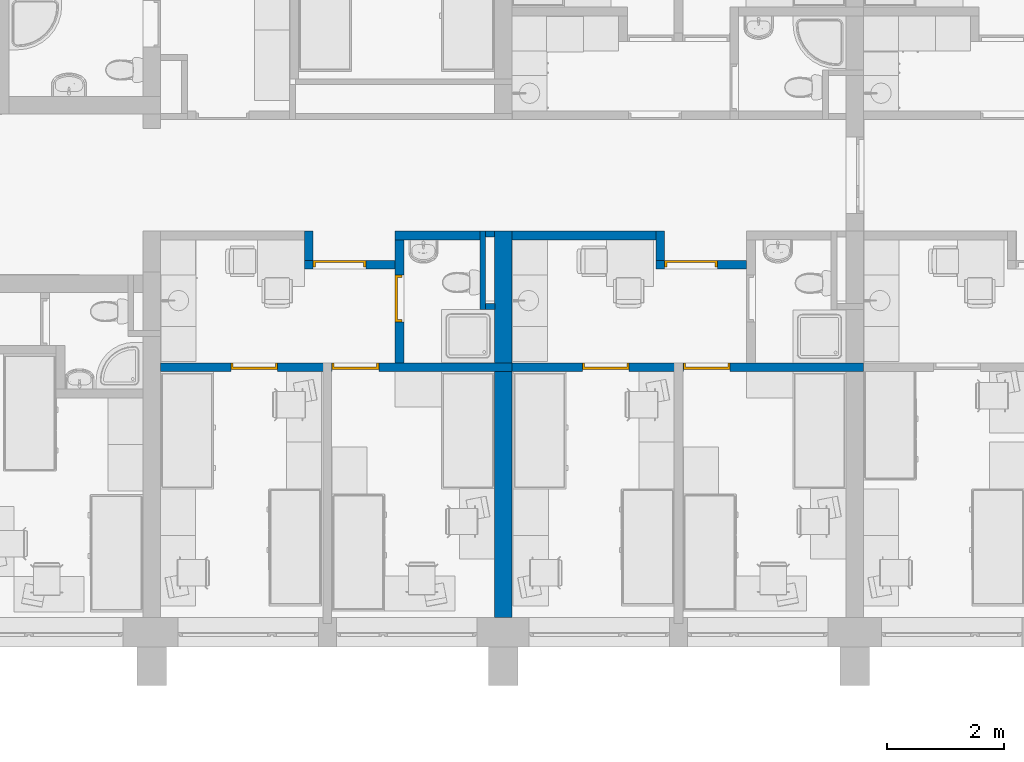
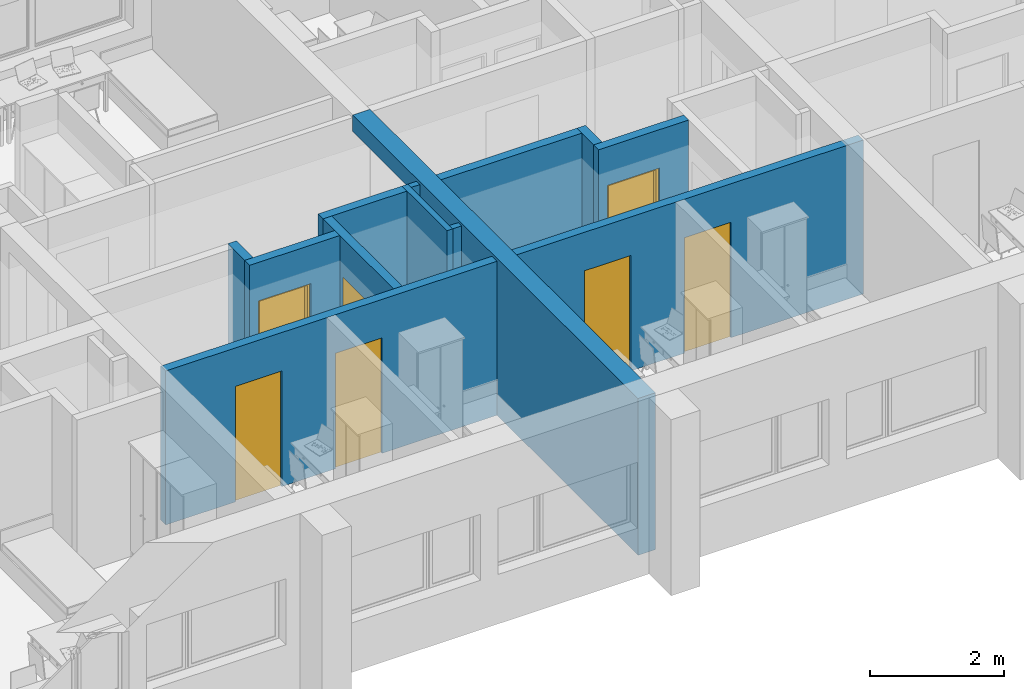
# One storey, part 3 of 165: 13 walls, 7 doors, 8 openings.
"""IFC2X3 building model written with IfcOpenShell, lengths in millimetres."""

import ifcopenshell
import ifcopenshell.guid

model = None  # the IFC model being written
_history = None  # IfcOwnerHistory: only IFC2X3 demands one
_inside = {}  # id of a spatial element -> (the spatial element, [elements in it])
_under = {}  # id of a project, library or spatial element -> (it, [spatial elements below it])
_declared = {}  # id of a project -> (the project, [libraries it declares])
_typed = {}  # id of a type object -> (the type object, [elements of that type])
_made_of = {}  # id of a material, layer set ... -> (it, [elements and type objects made of it])


def new_model(schema):
    """Start an empty IFC model of exactly this schema.

    Asked for "IFC4X3", IfcOpenShell would pick the latest addendum, in which some entities
    have other attributes; the version numbers below select the first issue.
    IFC2X3 requires an IfcOwnerHistory on every rooted entity: one is made here for all.
    """
    global model, _history
    if schema == "IFC4X3":
        model = ifcopenshell.file(schema_version=(4, 3, 0, 0))
    else:
        model = ifcopenshell.file(schema=schema)
    _inside.clear()
    _under.clear()
    _declared.clear()
    _typed.clear()
    _made_of.clear()
    _history = None
    if model.schema == "IFC2X3":
        org = make("IfcOrganization", Name="unknown")
        user = make(
            "IfcPersonAndOrganization",
            ThePerson=make("IfcPerson", FamilyName="unknown"),
            TheOrganization=org,
        )
        app = make(
            "IfcApplication",
            ApplicationDeveloper=org,
            Version="unknown",
            ApplicationFullName="unknown",
            ApplicationIdentifier="unknown",
        )
        _history = make(
            "IfcOwnerHistory",
            OwningUser=user,
            OwningApplication=app,
            ChangeAction="ADDED",
            CreationDate=0,
        )
    return model


def make(cls, **values):
    """One entity of the class cls with the attributes given. An attribute that is None is left unset."""
    return model.create_entity(
        cls, **{name: value for name, value in values.items() if value is not None}
    )


def entity(cls, *values):
    """Any entity or typed value of the class cls, its attributes in the order of the schema. None: left unset."""
    e = model.create_entity(cls)
    for i, value in enumerate(values):
        if value is not None:
            e[i] = value
    return e


def rooted(cls, **values):
    """An entity with a GlobalId (a new one), such as an element, a storey or a relation."""
    return make(cls, GlobalId=ifcopenshell.guid.new(), OwnerHistory=_history, **values)


def si_unit(unit_type, name, prefix=None):
    """IfcSIUnit, for example si_unit("LENGTHUNIT", "METRE", prefix="MILLI")."""
    return make("IfcSIUnit", UnitType=unit_type, Prefix=prefix, Name=name)


def converted_unit(unit_type, name, factor, base, dimensions=None, offset=None):
    """IfcConversionBasedUnit, such as the inch: factor (a typed value) times the base unit."""
    return make(
        "IfcConversionBasedUnit"
        if offset is None
        else "IfcConversionBasedUnitWithOffset",
        ConversionOffset=offset,
        Dimensions=None
        if dimensions is None
        else entity("IfcDimensionalExponents", *dimensions),
        UnitType=unit_type,
        Name=name,
        ConversionFactor=make(
            "IfcMeasureWithUnit", ValueComponent=factor, UnitComponent=base
        ),
    )


def money_unit(currency):
    """IfcMonetaryUnit."""
    return make("IfcMonetaryUnit", Currency=currency)


def assignment(units):
    """IfcUnitAssignment: the units of a project."""
    return None if units is None else make("IfcUnitAssignment", Units=units)


def point(xyz):
    """IfcCartesianPoint."""
    return None if xyz is None else make("IfcCartesianPoint", Coordinates=xyz)


def direction(xyz):
    """IfcDirection."""
    return None if xyz is None else make("IfcDirection", DirectionRatios=xyz)


def frame(location, z_axis=None, x_axis=None):
    """IfcAxis2Placement3D, a coordinate frame: its origin and axes. An axis left out is left unset."""
    return make(
        "IfcAxis2Placement3D",
        Location=point(location),
        Axis=direction(z_axis),
        RefDirection=direction(x_axis),
    )


def origin_with_axes():
    """The frame at (0, 0, 0) with the z axis (0, 0, 1) and the x axis (1, 0, 0) written out."""
    return frame((0.0, 0.0, 0.0), z_axis=(0.0, 0.0, 1.0), x_axis=(1.0, 0.0, 0.0))


def place(relative_to, where):
    """IfcLocalPlacement: puts the frame where relative to a parent placement (None: the world)."""
    return make(
        "IfcLocalPlacement", PlacementRelTo=relative_to, RelativePlacement=where
    )


def context(
    kind, dimensions, precision=None, world=None, true_north=None, identifier=None
):
    """IfcGeometricRepresentationContext, for example the 3D "Model" context."""
    return make(
        "IfcGeometricRepresentationContext",
        ContextIdentifier=identifier,
        ContextType=kind,
        CoordinateSpaceDimension=dimensions,
        Precision=precision,
        WorldCoordinateSystem=world,
        TrueNorth=true_north,
    )


def subcontext(parent, identifier, kind, view, scale=None):
    """IfcGeometricRepresentationSubContext, for example "Body" below "Model"."""
    return make(
        "IfcGeometricRepresentationSubContext",
        ContextIdentifier=identifier,
        ContextType=kind,
        ParentContext=parent,
        TargetScale=scale,
        TargetView=view,
    )


def project(units=None, contexts=None):
    """IfcProject with its units and contexts."""
    return rooted(
        "IfcProject",
        Name="project",
        RepresentationContexts=contexts,
        UnitsInContext=assignment(units),
    )


def spatial(cls, under=None, at=None, **own):
    """A site, building, storey or space (cls), placed at a placement, below another one or the project."""
    s = rooted(cls, ObjectPlacement=at, **own)
    if under is not None:
        _under.setdefault(under.id(), (under, []))[1].append(s)
    return s


def polyline(points):
    """IfcPolyline through the points."""
    return make("IfcPolyline", Points=[point(p) for p in points])


def outline(outer, holes=None, kind="AREA"):
    """IfcArbitraryClosedProfileDef: a profile drawn as a closed curve; with holes, ...WithVoids."""
    if holes is None:
        return make("IfcArbitraryClosedProfileDef", ProfileType=kind, OuterCurve=outer)
    return make(
        "IfcArbitraryProfileDefWithVoids",
        ProfileType=kind,
        OuterCurve=outer,
        InnerCurves=holes,
    )


def extrude(swept, where, along, depth):
    """IfcExtrudedAreaSolid: the profile swept, set in the frame where, extruded along a direction by depth."""
    return make(
        "IfcExtrudedAreaSolid",
        SweptArea=swept,
        Position=where,
        ExtrudedDirection=direction(along),
        Depth=depth,
    )


def faces_of(points, faces, orient=None, outer=None):
    """IfcFace entities. A face is a list of loops; a loop is a list of indices into points, from 0.

    orient and outer hold one flag for each loop. By default every Orientation is true, the
    first loop of a face is its IfcFaceOuterBound and the others are IfcFaceBound.
    """
    made = []
    for i, loops in enumerate(faces):
        bounds = []
        for j, loop in enumerate(loops):
            is_outer = j == 0 if outer is None else outer[i][j]
            bounds.append(
                make(
                    "IfcFaceOuterBound" if is_outer else "IfcFaceBound",
                    Bound=make("IfcPolyLoop", Polygon=[points[k] for k in loop]),
                    Orientation=True if orient is None else orient[i][j],
                )
            )
        made.append(make("IfcFace", Bounds=bounds))
    return made


def faceted_brep(points, faces, orient=None, outer=None, voids=None):
    """IfcFacetedBrep: a solid bounded by flat faces; with voids (closed shells), ...WithVoids."""
    shared = [point(p) for p in points]
    hull = make("IfcClosedShell", CfsFaces=faces_of(shared, faces, orient, outer))
    if voids is None:
        return make("IfcFacetedBrep", Outer=hull)
    return make(
        "IfcFacetedBrepWithVoids",
        Outer=hull,
        Voids=[
            make(cls, CfsFaces=faces_of(shared, fs, o, b)) for cls, fs, o, b in voids
        ],
    )


def shape(context_of_items, identifier, shape_type, items):
    """IfcShapeRepresentation: the items that make up one representation, for example the "Body"."""
    return make(
        "IfcShapeRepresentation",
        ContextOfItems=context_of_items,
        RepresentationIdentifier=identifier,
        RepresentationType=shape_type,
        Items=items,
    )


def source(mapping_origin, context_of_items, identifier, shape_type, items):
    """IfcRepresentationMap: a shape defined once, which mapped items show again and again."""
    return make(
        "IfcRepresentationMap",
        MappingOrigin=mapping_origin,
        MappedRepresentation=shape(context_of_items, identifier, shape_type, items),
    )


def transform(
    local_origin,
    x_axis=None,
    y_axis=None,
    z_axis=None,
    scale=None,
    scale2=None,
    scale3=None,
    uniform=True,
):
    """IfcCartesianTransformationOperator3D, or its non-uniform kind. x_axis, y_axis, z_axis: its Axis1, 2, 3."""
    if uniform:
        return make(
            "IfcCartesianTransformationOperator3D",
            Axis1=direction(x_axis),
            Axis2=direction(y_axis),
            LocalOrigin=point(local_origin),
            Scale=scale,
            Axis3=direction(z_axis),
        )
    return make(
        "IfcCartesianTransformationOperator3DnonUniform",
        Axis1=direction(x_axis),
        Axis2=direction(y_axis),
        LocalOrigin=point(local_origin),
        Scale=scale,
        Axis3=direction(z_axis),
        Scale2=scale2,
        Scale3=scale3,
    )


def mapped(mapping_source, mapping_target):
    """IfcMappedItem: shows the shape of a source again, moved by a transform."""
    return make(
        "IfcMappedItem", MappingSource=mapping_source, MappingTarget=mapping_target
    )


def material(Name=None, Category=None):
    """IfcMaterial."""
    return make("IfcMaterial", Name=Name, Category=Category)


def material_list(materials):
    """IfcMaterialList."""
    return make("IfcMaterialList", Materials=materials)


def layer(
    of_material, thickness, ventilated=None, Name=None, Category=None, Priority=None
):
    """IfcMaterialLayer: one layer of a wall or slab, of a material (None: an air gap)."""
    return make(
        "IfcMaterialLayer",
        Material=of_material,
        LayerThickness=thickness,
        IsVentilated=ventilated,
        Name=Name,
        Category=Category,
        Priority=Priority,
    )


def layer_set(layers, Name=None):
    """IfcMaterialLayerSet."""
    return make("IfcMaterialLayerSet", MaterialLayers=layers, LayerSetName=Name)


def layer_usage(for_layer_set, set_direction, sense, offset, extent=None):
    """IfcMaterialLayerSetUsage: how a layer set lies in its element."""
    return make(
        "IfcMaterialLayerSetUsage",
        ForLayerSet=for_layer_set,
        LayerSetDirection=set_direction,
        DirectionSense=sense,
        OffsetFromReferenceLine=offset,
        ReferenceExtent=extent,
    )


def made_of(thing, what):
    """Note that an element or type object is made of a material, layer set ...; save() writes the relation."""
    if what is not None:
        _made_of.setdefault(what.id(), (what, []))[1].append(thing)
    return thing


def type_object(cls, material=None, **own):
    """A type object (cls), such as IfcWallType, which elements share."""
    return made_of(rooted(cls, **own), material)


def element(
    cls,
    number,
    at=None,
    inside=None,
    cuts=None,
    type_object=None,
    material=None,
    context=None,
    identifier="Body",
    shape_type=None,
    held_by="IfcProductDefinitionShape",
    body=None,
    shapes=None,
    **own,
):
    """One element of the class cls, such as IfcWall. Its Tag is "e" and its number.

    at: its placement. inside: the storey or other place that contains it. cuts: it is an
    opening in that element (IfcRelVoidsElement). A single representation is given by context,
    identifier, shape_type and body (its items); several are given by shapes. held_by: the class
    of the entity that holds the representations. save() writes the other relations.
    """
    e = rooted(cls, Tag="e%d" % number, ObjectPlacement=at, **own)
    if body is not None:
        shapes = [shape(context, identifier, shape_type, body)]
    if shapes is not None:
        e.Representation = make(held_by, Representations=shapes)
    if inside is not None:
        _inside.setdefault(inside.id(), (inside, []))[1].append(e)
    if cuts is not None:
        rooted(
            "IfcRelVoidsElement", RelatingBuildingElement=cuts, RelatedOpeningElement=e
        )
    if type_object is not None:
        _typed.setdefault(type_object.id(), (type_object, []))[1].append(e)
    return made_of(e, material)


def fill(opening, filler):
    """IfcRelFillsElement: the door or window that sits in an opening."""
    return rooted(
        "IfcRelFillsElement",
        RelatingOpeningElement=opening,
        RelatedBuildingElement=filler,
    )


def aggregate(whole, parts):
    """IfcRelAggregates: a whole, such as a stair, and the parts it consists of."""
    return rooted("IfcRelAggregates", RelatingObject=whole, RelatedObjects=parts)


def save(model, path):
    """Write the relations noted so far, then the file.

    IfcRelAggregates (storeys below a building ...), IfcRelContainedInSpatialStructure (elements
    in a storey), IfcRelDefinesByType, IfcRelAssociatesMaterial and IfcRelDeclares: one each for
    every whole, place, type object, material and project.
    """
    for whole, parts in _under.values():
        aggregate(whole, parts)
    for where, things in _inside.values():
        rooted(
            "IfcRelContainedInSpatialStructure",
            RelatedElements=things,
            RelatingStructure=where,
        )
    for kind, things in _typed.values():
        rooted("IfcRelDefinesByType", RelatedObjects=things, RelatingType=kind)
    for what, things in _made_of.values():
        rooted("IfcRelAssociatesMaterial", RelatedObjects=things, RelatingMaterial=what)
    for by, libraries in _declared.values():
        rooted("IfcRelDeclares", RelatingContext=by, RelatedDefinitions=libraries)
    model.write(path)


model = new_model("IFC2X3")

# Units and contexts
model_context = context("Model", 3, precision=1e-05, world=origin_with_axes(), true_north=direction((0.0, 1.0)))
body_context = subcontext(model_context, "Body", "Model", "MODEL_VIEW")
ifc_project = project(units=[si_unit("LENGTHUNIT", "METRE", prefix="MILLI"), si_unit("AREAUNIT", "SQUARE_METRE"), si_unit("VOLUMEUNIT", "CUBIC_METRE"), converted_unit("PLANEANGLEUNIT", "DEGREE", entity("IfcPlaneAngleMeasure", 0.0174532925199), si_unit("PLANEANGLEUNIT", "RADIAN"), dimensions=[0, 0, 0, 0, 0, 0, 0]), si_unit("SOLIDANGLEUNIT", "STERADIAN"), money_unit("USD"), converted_unit("TIMEUNIT", "Year", entity("IfcTimeMeasure", 31556926.0), si_unit("TIMEUNIT", "SECOND"), dimensions=[0, 0, 0, 0, 0, 0, 0]), si_unit("MASSUNIT", "GRAM"), si_unit("THERMODYNAMICTEMPERATUREUNIT", "DEGREE_CELSIUS"), si_unit("LUMINOUSINTENSITYUNIT", "LUMEN")], contexts=[model_context])

# Site, building, storey
site_placement = place(None, origin_with_axes())
site = spatial("IfcSite", under=ifc_project, at=site_placement, Name="Site", CompositionType="ELEMENT")
building_placement = place(site_placement, origin_with_axes())
building = spatial("IfcBuilding", under=site, at=building_placement, Name="Building", CompositionType="ELEMENT")
storey_placement = place(building_placement, frame((0.0, 0.0, 6300.0), z_axis=(0.0, 0.0, 1.0), x_axis=(1.0, 0.0, 0.0)))
storey = spatial("IfcBuildingStorey", under=building, at=storey_placement, Name="4KORRUS", CompositionType="ELEMENT", Elevation=6300.0)

# Wall, opening, door
ifc_material_1 = material(Name="UmbKipsplaat")
ifc_layer_1 = layer(ifc_material_1, 13.0, ventilated="UNKNOWN")
ifc_layer_2 = layer(ifc_material_1, 13.0, ventilated="UNKNOWN")
ifc_material_2 = material(Name="SOOJUSTUS MINERAALVILL")
ifc_layer_3 = layer(ifc_material_2, 98.0, ventilated="UNKNOWN")
ifc_layer_4 = layer(ifc_material_1, 13.0, ventilated="UNKNOWN")
ifc_layer_5 = layer(ifc_material_1, 13.0, ventilated="UNKNOWN")
ifc_layer_set_1 = layer_set([ifc_layer_1, ifc_layer_2, ifc_layer_3, ifc_layer_4, ifc_layer_5], Name="kipssein150")
ifc_layer_usage_1 = layer_usage(ifc_layer_set_1, "AXIS2", "POSITIVE", 0.0)
wall_type_1 = type_object("IfcWallType", Name="kipssein150 150", PredefinedType="NOTDEFINED")
wall_1_placement = place(storey_placement, frame((-43984.201689, -13539.4524083, 0.0), z_axis=(0.0, 0.0, 1.0), x_axis=(-1.0, 0.0, 0.0)))
wall_1 = element("IfcWallStandardCase", 1, at=wall_1_placement, inside=storey, type_object=wall_type_1, material=ifc_layer_usage_1, Name="SS1", ObjectType="SS1", context=body_context, shape_type="SweptSolid", body=[
    extrude(outline(polyline([(0.0, 0.0), (1549.66067938, 0.0), (1549.66067938, 150.0), (0.0, 150.0), (0.0, 0.0)])), origin_with_axes(), (0.0, 0.0, 1.0), 2800.0),
])
opening_1_placement = place(wall_1_placement, frame((949.660679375, 0.0, 0.0), z_axis=(0.0, 0.0, 1.0), x_axis=(1.0, 0.0, 0.0)))
opening_1 = element("IfcOpeningElement", 2, at=opening_1_placement, cuts=wall_1, Name="SU2-6", context=body_context, shape_type="SweptSolid", body=[
    extrude(outline(polyline([(-450.0, -2100.0), (450.0, -2100.0), (450.0, 0.0), (-450.0, 0.0), (-450.0, -2100.0)])), frame((0.0, 150.0, 0.0), z_axis=(0.0, 1.0, 0.0), x_axis=(1.0, 0.0, 0.0)), (0.0, 0.0, -1.0), 450.0),
])
ifc_material_3 = material(Name="Background")
ifc_material_list = material_list([ifc_material_3])
door_style_1 = type_object("IfcDoorStyle", Name="Door 19", ConstructionType="NOTDEFINED", OperationType="SINGLE_SWING_LEFT", ParameterTakesPrecedence=False, Sizeable=False)
shared_shape_1 = source(origin_with_axes(), body_context, "Body", "Brep", [
    faceted_brep([(410.0, -40.0, 0.0), (410.0, -115.0, 0.0), (410.0, -115.0, 2060.0), (410.0, -40.0, 2060.0), (422.0, -40.0, 0.0), (422.0, 0.0, 0.0), (450.0, 0.0, 0.0), (450.0, -115.0, 0.0), (450.0, -115.0, 2060.0), (422.0, -40.0, 2060.0), (450.0, 0.0, 2060.0), (422.0, 0.0, 2060.0)], [[[0, 1, 2, 3]], [[4, 5, 6, 7, 1, 0]], [[2, 1, 7, 8]], [[9, 3, 2, 8, 10, 11]], [[9, 4, 0, 3]], [[11, 5, 4, 9]], [[11, 10, 6, 5]], [[7, 6, 10, 8]]]),
    faceted_brep([(-422.0, -40.0, 2060.0), (-422.0, 0.0, 2060.0), (-450.0, 0.0, 2060.0), (-450.0, -115.0, 2060.0), (-410.0, -115.0, 2060.0), (-410.0, -40.0, 2060.0), (-422.0, -40.0, 0.0), (-422.0, 0.0, 0.0), (-450.0, 0.0, 0.0), (-450.0, -115.0, 0.0), (-410.0, -115.0, 0.0), (-410.0, -40.0, 0.0)], [[[0, 1, 2, 3, 4, 5]], [[0, 6, 7, 1]], [[7, 8, 2, 1]], [[3, 2, 8, 9]], [[4, 3, 9, 10]], [[5, 4, 10, 11]], [[5, 11, 6, 0]], [[6, 11, 10, 9, 8, 7]]]),
    faceted_brep([(422.0, 0.0, 2072.0), (-422.0, 0.0, 2072.0), (-422.0, 0.0, 2060.0), (-450.0, 0.0, 2060.0), (-450.0, 0.0, 2100.0), (450.0, 0.0, 2100.0), (450.0, 0.0, 2060.0), (422.0, 0.0, 2060.0), (422.0, -40.0, 2072.0), (-422.0, -40.0, 2072.0), (-422.0, -40.0, 2060.0), (-410.0, -40.0, 2060.0), (-410.0, -115.0, 2060.0), (-450.0, -115.0, 2060.0), (-450.0, -115.0, 2100.0), (450.0, -115.0, 2100.0), (450.0, -115.0, 2060.0), (422.0, -40.0, 2060.0), (410.0, -115.0, 2060.0), (410.0, -40.0, 2060.0)], [[[0, 1, 2, 3, 4, 5, 6, 7]], [[0, 8, 9, 1]], [[1, 9, 10, 2]], [[10, 11, 12, 13, 3, 2]], [[14, 4, 3, 13]], [[15, 5, 4, 14]], [[16, 6, 5, 15]], [[17, 7, 6, 16, 18, 19]], [[7, 17, 8, 0]], [[10, 9, 8, 17, 19, 11]], [[19, 18, 12, 11]], [[13, 12, 18, 16, 15, 14]]]),
    faceted_brep([(-422.0, 0.0, 0.0), (422.0, 0.0, 0.0), (422.0, -40.0, 0.0), (-422.0, -40.0, 0.0), (-422.0, 0.0, 2072.0), (422.0, 0.0, 2072.0), (422.0, -40.0, 2072.0), (-422.0, -40.0, 2072.0)], [[[0, 1, 2, 3]], [[0, 4, 5, 1]], [[1, 5, 6, 2]], [[3, 2, 6, 7]], [[4, 0, 3, 7]], [[5, 4, 7, 6]]]),
])
door_1_placement = place(opening_1_placement, frame((450.0, 0.0, 0.0), z_axis=(0.0, 0.0, 1.0), x_axis=(-1.0, 0.0, 0.0)))
door_1 = element("IfcDoor", 3, at=door_1_placement, inside=storey, type_object=door_style_1, material=ifc_material_list, Name="SU2-6", ObjectType="Korteri välisuks", OverallHeight=2100.0, OverallWidth=900.0, context=body_context, shape_type="MappedRepresentation", body=[
    mapped(shared_shape_1, transform((450.0, 0.0, 0.0))),
])
fill(opening_1, door_1)

ifc_layer_usage_2 = layer_usage(ifc_layer_set_1, "AXIS2", "POSITIVE", -150.0)
wall_2_placement = place(storey_placement, frame((-43984.201689, -15289.2398994, 0.0), z_axis=(0.0, 0.0, 1.0), x_axis=(0.0, 1.0, 0.0)))
wall_2 = element("IfcWallStandardCase", 4, at=wall_2_placement, inside=storey, type_object=wall_type_1, material=ifc_layer_usage_2, Name="SS1", ObjectType="SS1", context=body_context, shape_type="SweptSolid", body=[
    extrude(outline(polyline([(0.0, -150.0), (2249.86932682, -150.0), (2249.86932682, 0.0), (0.0, 0.0), (0.0, -150.0)])), origin_with_axes(), (0.0, 0.0, 1.0), 2800.0),
])
opening_2_placement = place(wall_2_placement, frame((1099.78749111, 0.0, 0.0), z_axis=(0.0, 0.0, 1.0), x_axis=(1.0, 0.0, 0.0)))
opening_2 = element("IfcOpeningElement", 5, at=opening_2_placement, cuts=wall_2, Name="SU3-2", context=body_context, shape_type="SweptSolid", body=[
    extrude(outline(polyline([(-400.0, -2100.0), (400.0, -2100.0), (400.0, 0.0), (-400.0, 0.0), (-400.0, -2100.0)])), frame((0.0, -150.0, 0.0), z_axis=(0.0, 1.0, 0.0), x_axis=(1.0, 0.0, 0.0)), (0.0, 0.0, 1.0), 450.0),
])
door_style_2 = type_object("IfcDoorStyle", Name="Door 19", ConstructionType="NOTDEFINED", OperationType="SINGLE_SWING_RIGHT", ParameterTakesPrecedence=False, Sizeable=False)
shared_shape_2 = source(origin_with_axes(), body_context, "Body", "Brep", [
    faceted_brep([(-360.0, -40.0, 0.0), (-360.0, -40.0, 2060.0), (-360.0, -115.0, 2060.0), (-360.0, -115.0, 0.0), (-372.0, -40.0, 2060.0), (-372.0, -40.0, 0.0), (-372.0, 0.0, 2060.0), (-400.0, 0.0, 2060.0), (-400.0, -115.0, 2060.0), (-400.0, -115.0, 0.0), (-400.0, 0.0, 0.0), (-372.0, 0.0, 0.0)], [[[0, 1, 2, 3]], [[4, 1, 0, 5]], [[4, 6, 7, 8, 2, 1]], [[2, 8, 9, 3]], [[5, 0, 3, 9, 10, 11]], [[6, 4, 5, 11]], [[6, 11, 10, 7]], [[9, 8, 7, 10]]]),
    faceted_brep([(372.0, -40.0, 2060.0), (360.0, -40.0, 2060.0), (360.0, -115.0, 2060.0), (400.0, -115.0, 2060.0), (400.0, 0.0, 2060.0), (372.0, 0.0, 2060.0), (372.0, -40.0, 0.0), (360.0, -40.0, 0.0), (360.0, -115.0, 0.0), (400.0, -115.0, 0.0), (400.0, 0.0, 0.0), (372.0, 0.0, 0.0)], [[[0, 1, 2, 3, 4, 5]], [[1, 0, 6, 7]], [[1, 7, 8, 2]], [[2, 8, 9, 3]], [[3, 9, 10, 4]], [[11, 5, 4, 10]], [[0, 5, 11, 6]], [[6, 11, 10, 9, 8, 7]]]),
    faceted_brep([(-372.0, 0.0, 2072.0), (-372.0, 0.0, 2060.0), (-400.0, 0.0, 2060.0), (-400.0, 0.0, 2100.0), (400.0, 0.0, 2100.0), (400.0, 0.0, 2060.0), (372.0, 0.0, 2060.0), (372.0, 0.0, 2072.0), (-372.0, -40.0, 2072.0), (-372.0, -40.0, 2060.0), (-360.0, -40.0, 2060.0), (-360.0, -115.0, 2060.0), (-400.0, -115.0, 2060.0), (-400.0, -115.0, 2100.0), (400.0, -115.0, 2100.0), (400.0, -115.0, 2060.0), (372.0, -40.0, 2060.0), (360.0, -115.0, 2060.0), (360.0, -40.0, 2060.0), (372.0, -40.0, 2072.0)], [[[0, 1, 2, 3, 4, 5, 6, 7]], [[1, 0, 8, 9]], [[9, 10, 11, 12, 2, 1]], [[12, 13, 3, 2]], [[13, 14, 4, 3]], [[14, 15, 5, 4]], [[16, 6, 5, 15, 17, 18]], [[7, 6, 16, 19]], [[0, 7, 19, 8]], [[16, 18, 10, 9, 8, 19]], [[10, 18, 17, 11]], [[15, 14, 13, 12, 11, 17]]]),
    faceted_brep([(372.0, 0.0, 0.0), (372.0, -40.0, 0.0), (-372.0, -40.0, 0.0), (-372.0, 0.0, 0.0), (372.0, 0.0, 2072.0), (372.0, -40.0, 2072.0), (-372.0, -40.0, 2072.0), (-372.0, 0.0, 2072.0)], [[[0, 1, 2, 3]], [[4, 5, 1, 0]], [[1, 5, 6, 2]], [[3, 2, 6, 7]], [[0, 3, 7, 4]], [[7, 6, 5, 4]]]),
])
door_2_placement = place(opening_2_placement, frame((-400.0, 0.0, 0.0), z_axis=(0.0, 0.0, 1.0), x_axis=(1.0, 0.0, 0.0)))
door_2 = element("IfcDoor", 6, at=door_2_placement, inside=storey, type_object=door_style_2, material=ifc_material_list, Name="SU3-2", ObjectType="WC-uks", OverallHeight=2100.0, OverallWidth=800.0, context=body_context, shape_type="MappedRepresentation", body=[
    mapped(shared_shape_2, transform((400.0, 0.0, 0.0))),
])
fill(opening_2, door_2)

# Wall, openings, doors
ifc_layer_usage_3 = layer_usage(ifc_layer_set_1, "AXIS2", "POSITIVE", -150.0)
wall_3_placement = place(storey_placement, frame((-41990.2967033, -15439.2398994, 0.0), z_axis=(0.0, 0.0, 1.0), x_axis=(-1.0, 0.0, 0.0)))
wall_3 = element("IfcWallStandardCase", 7, at=wall_3_placement, inside=storey, type_object=wall_type_1, material=ifc_layer_usage_3, Name="SS1", ObjectType="SS1", context=body_context, shape_type="SweptSolid", body=[
    extrude(outline(polyline([(0.0, -150.0), (6000.0, -150.0), (6000.0, 0.0), (0.0, 0.0), (0.0, -150.0)])), origin_with_axes(), (0.0, 0.0, 1.0), 2800.0),
])
opening_3_placement = place(wall_3_placement, frame((4400.0, 0.0, 0.0), z_axis=(0.0, 0.0, 1.0), x_axis=(1.0, 0.0, 0.0)))
opening_3 = element("IfcOpeningElement", 8, at=opening_3_placement, cuts=wall_3, Name="SU3-5", context=body_context, shape_type="SweptSolid", body=[
    extrude(outline(polyline([(-400.0, 0.0), (400.0, 0.0), (400.0, 2100.0), (-400.0, 2100.0), (-400.0, 0.0)])), frame((0.0, 150.0, 0.0), z_axis=(0.0, 1.0, 0.0), x_axis=(-1.0, 0.0, 0.0)), (0.0, 0.0, -1.0), 450.0),
])
opening_4_placement = place(wall_3_placement, frame((2675.0, 0.0, 0.0), z_axis=(0.0, 0.0, 1.0), x_axis=(1.0, 0.0, 0.0)))
opening_4 = element("IfcOpeningElement", 9, at=opening_4_placement, cuts=wall_3, Name="SU3-4", context=body_context, shape_type="SweptSolid", body=[
    extrude(outline(polyline([(-400.0, 0.0), (400.0, 0.0), (400.0, 2100.0), (-400.0, 2100.0), (-400.0, 0.0)])), frame((0.0, 150.0, 0.0), z_axis=(0.0, -1.0, 0.0), x_axis=(1.0, 0.0, 0.0)), (0.0, 0.0, 1.0), 450.0),
])
door_style_3 = type_object("IfcDoorStyle", Name="Door 19", ConstructionType="NOTDEFINED", OperationType="SINGLE_SWING_LEFT", ParameterTakesPrecedence=False, Sizeable=False)
shared_shape_3 = source(origin_with_axes(), body_context, "Body", "Brep", [
    faceted_brep([(360.0, -75.0, 0.0), (360.0, -150.0, 0.0), (360.0, -150.0, 2060.0), (360.0, -75.0, 2060.0), (372.0, -75.0, 0.0), (372.0, -35.0, 0.0), (400.0, -35.0, 0.0), (400.0, -150.0, 0.0), (400.0, -150.0, 2060.0), (372.0, -75.0, 2060.0), (400.0, -35.0, 2060.0), (372.0, -35.0, 2060.0)], [[[0, 1, 2, 3]], [[4, 5, 6, 7, 1, 0]], [[2, 1, 7, 8]], [[9, 3, 2, 8, 10, 11]], [[9, 4, 0, 3]], [[11, 5, 4, 9]], [[11, 10, 6, 5]], [[7, 6, 10, 8]]]),
    faceted_brep([(-372.0, -75.0, 2060.0), (-372.0, -35.0, 2060.0), (-400.0, -35.0, 2060.0), (-400.0, -150.0, 2060.0), (-360.0, -150.0, 2060.0), (-360.0, -75.0, 2060.0), (-372.0, -75.0, 0.0), (-372.0, -35.0, 0.0), (-400.0, -35.0, 0.0), (-400.0, -150.0, 0.0), (-360.0, -150.0, 0.0), (-360.0, -75.0, 0.0)], [[[0, 1, 2, 3, 4, 5]], [[0, 6, 7, 1]], [[7, 8, 2, 1]], [[3, 2, 8, 9]], [[4, 3, 9, 10]], [[5, 4, 10, 11]], [[5, 11, 6, 0]], [[6, 11, 10, 9, 8, 7]]]),
    faceted_brep([(372.0, -35.0, 2072.0), (-372.0, -35.0, 2072.0), (-372.0, -35.0, 2060.0), (-400.0, -35.0, 2060.0), (-400.0, -35.0, 2100.0), (400.0, -35.0, 2100.0), (400.0, -35.0, 2060.0), (372.0, -35.0, 2060.0), (372.0, -75.0, 2072.0), (-372.0, -75.0, 2072.0), (-372.0, -75.0, 2060.0), (-360.0, -75.0, 2060.0), (-360.0, -150.0, 2060.0), (-400.0, -150.0, 2060.0), (-400.0, -150.0, 2100.0), (400.0, -150.0, 2100.0), (400.0, -150.0, 2060.0), (372.0, -75.0, 2060.0), (360.0, -150.0, 2060.0), (360.0, -75.0, 2060.0)], [[[0, 1, 2, 3, 4, 5, 6, 7]], [[0, 8, 9, 1]], [[1, 9, 10, 2]], [[10, 11, 12, 13, 3, 2]], [[14, 4, 3, 13]], [[15, 5, 4, 14]], [[16, 6, 5, 15]], [[17, 7, 6, 16, 18, 19]], [[7, 17, 8, 0]], [[10, 9, 8, 17, 19, 11]], [[19, 18, 12, 11]], [[13, 12, 18, 16, 15, 14]]]),
    faceted_brep([(-372.0, -35.0, 0.0), (372.0, -35.0, 0.0), (372.0, -75.0, 0.0), (-372.0, -75.0, 0.0), (-372.0, -35.0, 2072.0), (372.0, -35.0, 2072.0), (372.0, -75.0, 2072.0), (-372.0, -75.0, 2072.0)], [[[0, 1, 2, 3]], [[0, 4, 5, 1]], [[1, 5, 6, 2]], [[3, 2, 6, 7]], [[4, 0, 3, 7]], [[5, 4, 7, 6]]]),
])
door_3_placement = place(opening_3_placement, frame((-400.0, 0.0, 0.0), z_axis=(0.0, 0.0, 1.0), x_axis=(1.0, 0.0, 0.0)))
door_3 = element("IfcDoor", 10, at=door_3_placement, inside=storey, type_object=door_style_3, material=ifc_material_list, Name="SU3-5", ObjectType="Toa uks", OverallHeight=2100.0, OverallWidth=800.0, context=body_context, shape_type="MappedRepresentation", body=[
    mapped(shared_shape_3, transform((400.0, 0.0, 0.0))),
])
fill(opening_3, door_3)
door_style_4 = type_object("IfcDoorStyle", Name="Door 19", ConstructionType="NOTDEFINED", OperationType="SINGLE_SWING_RIGHT", ParameterTakesPrecedence=False, Sizeable=False)
shared_shape_4 = source(origin_with_axes(), body_context, "Body", "Brep", [
    faceted_brep([(-360.0, -75.0, 0.0), (-360.0, -75.0, 2060.0), (-360.0, -150.0, 2060.0), (-360.0, -150.0, 0.0), (-372.0, -75.0, 2060.0), (-372.0, -75.0, 0.0), (-372.0, -35.0, 2060.0), (-400.0, -35.0, 2060.0), (-400.0, -150.0, 2060.0), (-400.0, -150.0, 0.0), (-400.0, -35.0, 0.0), (-372.0, -35.0, 0.0)], [[[0, 1, 2, 3]], [[4, 1, 0, 5]], [[4, 6, 7, 8, 2, 1]], [[2, 8, 9, 3]], [[5, 0, 3, 9, 10, 11]], [[6, 4, 5, 11]], [[6, 11, 10, 7]], [[9, 8, 7, 10]]]),
    faceted_brep([(372.0, -75.0, 2060.0), (360.0, -75.0, 2060.0), (360.0, -150.0, 2060.0), (400.0, -150.0, 2060.0), (400.0, -35.0, 2060.0), (372.0, -35.0, 2060.0), (372.0, -75.0, 0.0), (360.0, -75.0, 0.0), (360.0, -150.0, 0.0), (400.0, -150.0, 0.0), (400.0, -35.0, 0.0), (372.0, -35.0, 0.0)], [[[0, 1, 2, 3, 4, 5]], [[1, 0, 6, 7]], [[1, 7, 8, 2]], [[2, 8, 9, 3]], [[3, 9, 10, 4]], [[11, 5, 4, 10]], [[0, 5, 11, 6]], [[6, 11, 10, 9, 8, 7]]]),
    faceted_brep([(-372.0, -35.0, 2072.0), (-372.0, -35.0, 2060.0), (-400.0, -35.0, 2060.0), (-400.0, -35.0, 2100.0), (400.0, -35.0, 2100.0), (400.0, -35.0, 2060.0), (372.0, -35.0, 2060.0), (372.0, -35.0, 2072.0), (-372.0, -75.0, 2072.0), (-372.0, -75.0, 2060.0), (-360.0, -75.0, 2060.0), (-360.0, -150.0, 2060.0), (-400.0, -150.0, 2060.0), (-400.0, -150.0, 2100.0), (400.0, -150.0, 2100.0), (400.0, -150.0, 2060.0), (372.0, -75.0, 2060.0), (360.0, -150.0, 2060.0), (360.0, -75.0, 2060.0), (372.0, -75.0, 2072.0)], [[[0, 1, 2, 3, 4, 5, 6, 7]], [[1, 0, 8, 9]], [[9, 10, 11, 12, 2, 1]], [[12, 13, 3, 2]], [[13, 14, 4, 3]], [[14, 15, 5, 4]], [[16, 6, 5, 15, 17, 18]], [[7, 6, 16, 19]], [[0, 7, 19, 8]], [[16, 18, 10, 9, 8, 19]], [[10, 18, 17, 11]], [[15, 14, 13, 12, 11, 17]]]),
    faceted_brep([(372.0, -35.0, 0.0), (372.0, -75.0, 0.0), (-372.0, -75.0, 0.0), (-372.0, -35.0, 0.0), (372.0, -35.0, 2072.0), (372.0, -75.0, 2072.0), (-372.0, -75.0, 2072.0), (-372.0, -35.0, 2072.0)], [[[0, 1, 2, 3]], [[4, 5, 1, 0]], [[1, 5, 6, 2]], [[3, 2, 6, 7]], [[0, 3, 7, 4]], [[7, 6, 5, 4]]]),
])
door_4_placement = place(opening_4_placement, frame((-400.0, 0.0, 0.0), z_axis=(0.0, 0.0, 1.0), x_axis=(1.0, 0.0, 0.0)))
door_4 = element("IfcDoor", 11, at=door_4_placement, inside=storey, type_object=door_style_4, material=ifc_material_list, Name="SU3-4", ObjectType="Toa uks", OverallHeight=2100.0, OverallWidth=800.0, context=body_context, shape_type="MappedRepresentation", body=[
    mapped(shared_shape_4, transform((400.0, 0.0, 0.0))),
])
fill(opening_4, door_4)

# Wall
ifc_layer_usage_4 = layer_usage(ifc_layer_set_1, "AXIS2", "POSITIVE", -150.0)
wall_4_placement = place(storey_placement, frame((-43984.201689, -13039.3705726, 0.0), z_axis=(0.0, 0.0, 1.0), x_axis=(1.0, 0.0, 0.0)))
element("IfcWallStandardCase", 12, at=wall_4_placement, inside=storey, type_object=wall_type_1, material=ifc_layer_usage_4, Name="SS1", ObjectType="SS1", context=body_context, shape_type="SweptSolid", body=[
    extrude(outline(polyline([(0.0, -150.0), (1444.16240374, -150.0), (1444.16240374, 0.0), (0.0, 0.0), (0.0, -150.0)])), origin_with_axes(), (0.0, 0.0, 1.0), 2800.0),
])

# Wall, opening, door
ifc_layer_usage_5 = layer_usage(ifc_layer_set_1, "AXIS2", "POSITIVE", 0.0)
wall_5_placement = place(storey_placement, frame((-37984.201689, -13539.4524083, 0.0), z_axis=(0.0, 0.0, 1.0), x_axis=(-1.0, 0.0, 0.0)))
wall_5 = element("IfcWallStandardCase", 13, at=wall_5_placement, inside=storey, type_object=wall_type_1, material=ifc_layer_usage_5, Name="SS1", ObjectType="SS1", context=body_context, shape_type="SweptSolid", body=[
    extrude(outline(polyline([(0.0, 0.0), (1549.66067938, 0.0), (1549.66067938, 150.0), (0.0, 150.0), (0.0, 0.0)])), origin_with_axes(), (0.0, 0.0, 1.0), 2800.0),
])
opening_5_placement = place(wall_5_placement, frame((949.660679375, 0.0, 0.0), z_axis=(0.0, 0.0, 1.0), x_axis=(1.0, 0.0, 0.0)))
opening_5 = element("IfcOpeningElement", 14, at=opening_5_placement, cuts=wall_5, Name="SU2-6", context=body_context, shape_type="SweptSolid", body=[
    extrude(outline(polyline([(-450.0, -2100.0), (450.0, -2100.0), (450.0, 0.0), (-450.0, 0.0), (-450.0, -2100.0)])), frame((0.0, 150.0, 0.0), z_axis=(0.0, 1.0, 0.0), x_axis=(1.0, 0.0, 0.0)), (0.0, 0.0, -1.0), 450.0),
])
door_5_placement = place(opening_5_placement, frame((450.0, 0.0, 0.0), z_axis=(0.0, 0.0, 1.0), x_axis=(-1.0, 0.0, 0.0)))
door_5 = element("IfcDoor", 15, at=door_5_placement, inside=storey, type_object=door_style_1, material=ifc_material_list, Name="SU2-6", ObjectType="Korteri välisuks", OverallHeight=2100.0, OverallWidth=900.0, context=body_context, shape_type="MappedRepresentation", body=[
    mapped(shared_shape_1, transform((450.0, 0.0, 0.0))),
])
fill(opening_5, door_5)

# Walls
ifc_layer_usage_6 = layer_usage(ifc_layer_set_1, "AXIS2", "POSITIVE", 0.0)
wall_6_placement = place(storey_placement, frame((-39533.8623684, -13039.2398994, 0.0), z_axis=(0.0, 0.0, 1.0), x_axis=(0.0, -1.0, 0.0)))
element("IfcWallStandardCase", 16, at=wall_6_placement, inside=storey, type_object=wall_type_1, material=ifc_layer_usage_6, Name="SS1", ObjectType="SS1", context=body_context, shape_type="SweptSolid", body=[
    extrude(outline(polyline([(0.0, 0.0), (500.212508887, 0.0), (500.212508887, 150.0), (0.0, 150.0), (0.0, 0.0)])), origin_with_axes(), (0.0, 0.0, 1.0), 2800.0),
])
ifc_layer_usage_7 = layer_usage(ifc_layer_set_1, "AXIS2", "POSITIVE", 0.0)
wall_7_placement = place(storey_placement, frame((-39533.8623684, -13039.2398994, 0.0), z_axis=(0.0, 0.0, 1.0), x_axis=(-1.0, 0.0, 0.0)))
element("IfcWallStandardCase", 17, at=wall_7_placement, inside=storey, type_object=wall_type_1, material=ifc_layer_usage_7, Name="SS1", ObjectType="SS1", context=body_context, shape_type="SweptSolid", body=[
    extrude(outline(polyline([(0.0, 0.0), (2456.43433493, 0.0), (2456.43433493, 150.0), (0.0, 150.0), (0.0, 0.0)])), origin_with_axes(), (0.0, 0.0, 1.0), 2800.0),
])

# Wall, openings, doors
ifc_layer_usage_8 = layer_usage(ifc_layer_set_1, "AXIS2", "POSITIVE", -150.0)
wall_8_placement = place(storey_placement, frame((-35990.2967033, -15439.2398994, 0.0), z_axis=(0.0, 0.0, 1.0), x_axis=(-1.0, 0.0, 0.0)))
wall_8 = element("IfcWallStandardCase", 18, at=wall_8_placement, inside=storey, type_object=wall_type_1, material=ifc_layer_usage_8, Name="SS1", ObjectType="SS1", context=body_context, shape_type="SweptSolid", body=[
    extrude(outline(polyline([(0.0, -150.0), (6000.0, -150.0), (6000.0, 0.0), (0.0, 0.0), (0.0, -150.0)])), origin_with_axes(), (0.0, 0.0, 1.0), 2800.0),
])
opening_6_placement = place(wall_8_placement, frame((4400.0, 0.0, 0.0), z_axis=(0.0, 0.0, 1.0), x_axis=(1.0, 0.0, 0.0)))
opening_6 = element("IfcOpeningElement", 19, at=opening_6_placement, cuts=wall_8, Name="SU3-5", context=body_context, shape_type="SweptSolid", body=[
    extrude(outline(polyline([(-400.0, 0.0), (400.0, 0.0), (400.0, 2100.0), (-400.0, 2100.0), (-400.0, 0.0)])), frame((0.0, 150.0, 0.0), z_axis=(0.0, 1.0, 0.0), x_axis=(-1.0, 0.0, 0.0)), (0.0, 0.0, -1.0), 450.0),
])
opening_7_placement = place(wall_8_placement, frame((2675.0, 0.0, 0.0), z_axis=(0.0, 0.0, 1.0), x_axis=(1.0, 0.0, 0.0)))
opening_7 = element("IfcOpeningElement", 20, at=opening_7_placement, cuts=wall_8, Name="SU3-4", context=body_context, shape_type="SweptSolid", body=[
    extrude(outline(polyline([(-400.0, 0.0), (400.0, 0.0), (400.0, 2100.0), (-400.0, 2100.0), (-400.0, 0.0)])), frame((0.0, 150.0, 0.0), z_axis=(0.0, -1.0, 0.0), x_axis=(1.0, 0.0, 0.0)), (0.0, 0.0, 1.0), 450.0),
])
door_6_placement = place(opening_6_placement, frame((-400.0, 0.0, 0.0), z_axis=(0.0, 0.0, 1.0), x_axis=(1.0, 0.0, 0.0)))
door_6 = element("IfcDoor", 21, at=door_6_placement, inside=storey, type_object=door_style_3, material=ifc_material_list, Name="SU3-5", ObjectType="Toa uks", OverallHeight=2100.0, OverallWidth=800.0, context=body_context, shape_type="MappedRepresentation", body=[
    mapped(shared_shape_3, transform((400.0, 0.0, 0.0))),
])
fill(opening_6, door_6)
door_7_placement = place(opening_7_placement, frame((-400.0, 0.0, 0.0), z_axis=(0.0, 0.0, 1.0), x_axis=(1.0, 0.0, 0.0)))
door_7 = element("IfcDoor", 22, at=door_7_placement, inside=storey, type_object=door_style_4, material=ifc_material_list, Name="SU3-4", ObjectType="Toa uks", OverallHeight=2100.0, OverallWidth=800.0, context=body_context, shape_type="MappedRepresentation", body=[
    mapped(shared_shape_4, transform((400.0, 0.0, 0.0))),
])
fill(opening_7, door_7)

# Wall
ifc_layer_usage_9 = layer_usage(ifc_layer_set_1, "AXIS2", "POSITIVE", 0.0)
wall_9_placement = place(storey_placement, frame((-45533.8623684, -13039.2398994, 0.0), z_axis=(0.0, 0.0, 1.0), x_axis=(0.0, -1.0, 0.0)))
element("IfcWallStandardCase", 23, at=wall_9_placement, inside=storey, type_object=wall_type_1, material=ifc_layer_usage_9, Name="SS1", ObjectType="SS1", context=body_context, shape_type="SweptSolid", body=[
    extrude(outline(polyline([(0.0, 0.0), (500.212508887, 0.0), (500.212508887, 150.0), (0.0, 150.0), (0.0, 0.0)])), origin_with_axes(), (0.0, 0.0, 1.0), 2800.0),
])

# Wall, opening
ifc_material_4 = material(Name="Olemasolevad seinad tellis, uus viimistlus")
ifc_layer_6 = layer(ifc_material_4, 300.0, ventilated="UNKNOWN")
ifc_layer_set_2 = layer_set([ifc_layer_6], Name="Olemasolevad seinad tellis, uus viimistlus  300")
ifc_layer_usage_10 = layer_usage(ifc_layer_set_2, "AXIS2", "POSITIVE", 0.0)
wall_type_2 = type_object("IfcWallType", Name="Olemasolevad seinad tellis, uus viimistlus  300", PredefinedType="NOTDEFINED")
wall_10_placement = place(storey_placement, frame((-41990.2967033, -19639.2398994, 0.0), z_axis=(0.0, 0.0, 1.0), x_axis=(0.0, 1.0, 0.0)))
wall_10 = element("IfcWallStandardCase", 24, at=wall_10_placement, inside=storey, type_object=wall_type_2, material=ifc_layer_usage_10, Name="KS1", ObjectType="KS1", context=body_context, shape_type="SweptSolid", body=[
    extrude(outline(polyline([(0.0, 0.0), (8502.63579061, 0.0), (8502.63579061, 300.0), (0.0, 300.0), (0.0, 0.0)])), origin_with_axes(), (0.0, 0.0, 1.0), 2850.0),
])
opening_8_placement = place(wall_10_placement, frame((7551.31789531, 0.0, 0.0), z_axis=(0.0, 0.0, 1.0), x_axis=(1.0, 0.0, 0.0)))
element("IfcOpeningElement", 25, at=opening_8_placement, cuts=wall_10, Name="DOO - 001", context=body_context, shape_type="SweptSolid", body=[
    extrude(outline(polyline([(-951.318, 2550.0), (-951.318, 0.0), (951.318, 0.0), (951.318, 2550.0), (-951.318, 2550.0)])), frame((0.0, 0.0, 0.0), z_axis=(0.0, -1.0, 0.0), x_axis=(1.0, 0.0, 0.0)), (0.0, 0.0, 1.0), 300.0),
    extrude(outline(polyline([(-951.318, 0.0), (-951.318, -2550.0), (951.318, -2550.0), (951.318, 0.0), (-951.318, 0.0)])), frame((0.0, 0.0, 0.0), z_axis=(0.0, 1.0, 0.0), x_axis=(1.0, 0.0, 0.0)), (0.0, 0.0, 1.0), 300.0),
])

# Walls
ifc_material_5 = material(Name="krohv")
ifc_layer_7 = layer(ifc_material_5, 2.0, ventilated="UNKNOWN")
ifc_layer_8 = layer(ifc_material_5, 10.0, ventilated="UNKNOWN")
ifc_material_6 = material(Name="Kergplokk")
ifc_layer_9 = layer(ifc_material_6, 76.0, ventilated="UNKNOWN")
ifc_layer_10 = layer(ifc_material_5, 10.0, ventilated="UNKNOWN")
ifc_layer_11 = layer(ifc_material_5, 2.0, ventilated="UNKNOWN")
ifc_layer_set_3 = layer_set([ifc_layer_7, ifc_layer_8, ifc_layer_9, ifc_layer_10, ifc_layer_11], Name="Kergplokk Bauroc 100")
ifc_layer_usage_11 = layer_usage(ifc_layer_set_3, "AXIS2", "POSITIVE", -100.0)
wall_type_3 = type_object("IfcWallType", Name="Kergplokk Bauroc 100 100", PredefinedType="NOTDEFINED")
wall_11_placement = place(storey_placement, frame((-42284.008308, -14380.4716262, 0.0), z_axis=(0.0, 0.0, 1.0), x_axis=(-1.0, 0.0, 0.0)))
element("IfcWallStandardCase", 26, at=wall_11_placement, inside=storey, type_object=wall_type_3, material=ifc_layer_usage_11, Name="SS2", ObjectType="SS2", context=body_context, shape_type="SweptSolid", body=[
    extrude(outline(polyline([(0.0, -100.0), (156.0, -100.0), (156.0, 0.0), (0.0, 0.0), (0.0, -100.0)])), origin_with_axes(), (0.0, 0.0, 1.0), 2800.0),
])
ifc_layer_usage_12 = layer_usage(ifc_layer_set_3, "AXIS2", "POSITIVE", -100.0)
wall_12_placement = place(storey_placement, frame((-42440.008308, -13039.3705726, 0.0), z_axis=(0.0, 0.0, 1.0), x_axis=(1.0, 0.0, 0.0)))
element("IfcWallStandardCase", 27, at=wall_12_placement, inside=storey, type_object=wall_type_3, material=ifc_layer_usage_12, Name="SS2", ObjectType="SS2", context=body_context, shape_type="SweptSolid", body=[
    extrude(outline(polyline([(0.0, -100.0), (149.711604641, -100.0), (149.711604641, 0.0), (0.0, 0.0), (0.0, -100.0)])), origin_with_axes(), (0.0, 0.0, 1.0), 2800.0),
])
ifc_layer_usage_13 = layer_usage(ifc_layer_set_3, "AXIS2", "POSITIVE", -100.0)
wall_13_placement = place(storey_placement, frame((-42440.008308, -13039.3705726, 0.0), z_axis=(0.0, 0.0, 1.0), x_axis=(0.0, -1.0, 0.0)))
element("IfcWallStandardCase", 28, at=wall_13_placement, inside=storey, type_object=wall_type_3, material=ifc_layer_usage_13, Name="SS2", ObjectType="SS2", context=body_context, shape_type="SweptSolid", body=[
    extrude(outline(polyline([(0.0, -100.0), (1341.10105359, -100.0), (1341.10105359, 0.0), (0.0, 0.0), (0.0, -100.0)])), origin_with_axes(), (0.0, 0.0, 1.0), 2800.0),
])

save(model, "model.ifc")
